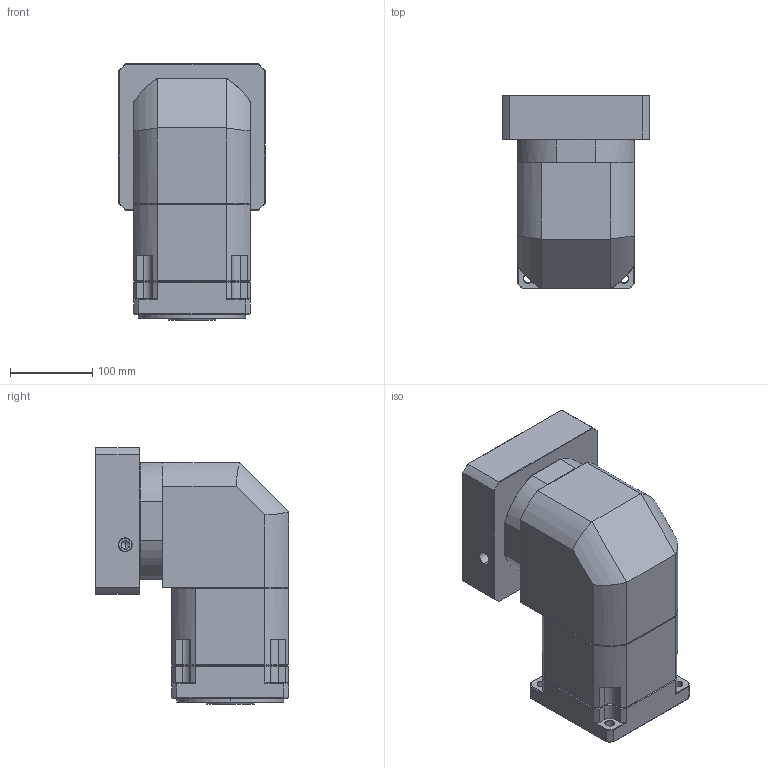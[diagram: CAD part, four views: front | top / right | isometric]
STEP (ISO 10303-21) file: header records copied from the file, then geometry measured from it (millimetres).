
FILE_DESCRIPTION (( 'STEP AP214' ), '1' );
FILE_NAME ('ZBR142A-K35-L2-P2-32-150-185-M10.step', '2023-09-02T07:16:44', ( '' ), ( '' ), 'SwSTEP 2.0', 'SolidWorks 2016', '' );
FILE_SCHEMA (( 'AUTOMOTIVE_DESIGN' ));
Length unit declared in the file: millimetre
Products named in the file (1): ZBR142A-K35-L2-P2-32-150-185-M10
Bounding box: 178 x 235 x 311.7 mm (x, y, z)
Volume: 6627589.3 mm3; surface area: 443654.8 mm2
Topology: 6 solids, 6 shells, 2253 faces, 5923 edges, 3776 vertices
Faces by surface type: plane 1113, bspline 407, cylinder 387, cone 326, torus 20
Entity records: 123872 total; most frequent: CARTESIAN_POINT 46754, ORIENTED_EDGE 11790, DIRECTION 9312, EDGE_CURVE 5895, LINE 3844, VECTOR 3844, VERTEX_POINT 3776, AXIS2_PLACEMENT_3D 2734
